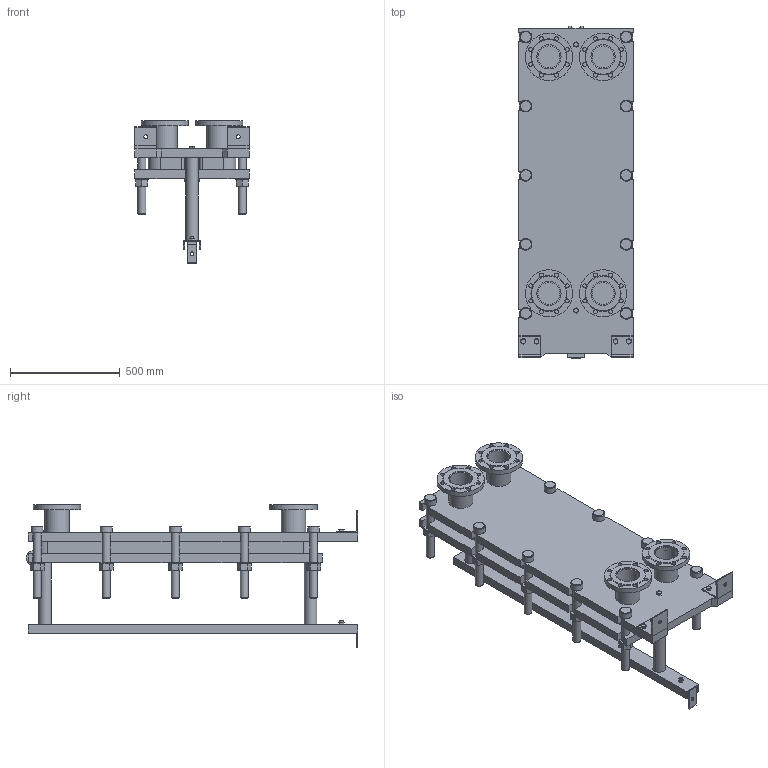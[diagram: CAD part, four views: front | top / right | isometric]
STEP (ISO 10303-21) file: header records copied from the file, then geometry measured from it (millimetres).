
FILE_DESCRIPTION(/* description */ (''),/* implementation_level */ '2;1');
FILE_NAME(/* name */ 'C:\Users\zhuro\Desktop\ENCO\TO\ЭН-04\ЭН-0,5-04-16-1.stp',/* time_stamp */ '2022-06-06T10:45:36+03:00',/* author */ ('zhuro'),/* organization */ (''),/* preprocessor_version */ 'ST-DEVELOPER v18.1',/* originating_system */ 'Autodesk Inventor 2022',/* authorisation */ '');
FILE_SCHEMA (('AUTOMOTIVE_DESIGN { 1 0 10303 214 3 1 1 }'));
Length unit declared in the file: millimetre
Products named in the file (1): ЭН-0,5-04-16-1
Bounding box: 520 x 1510 x 653 mm (x, y, z)
Volume: 94270529.9 mm3; surface area: 6508094 mm2
Topology: 45 solids, 45 shells, 668 faces, 1611 edges, 1048 vertices
Faces by surface type: plane 457, cylinder 166, cone 39, torus 6
Full cylindrical faces by diameter (mm): 8 x4, 10 x2, 16 x8, 18 x35, 36 x25, 40 x2, 42 x1, 45 x4, 54 x10, 57 x2, 60 x10, 68 x2, 100 x4, 110 x8, 215 x4
Entity records: 23607 total; most frequent: CARTESIAN_POINT 7348, DIRECTION 3371, ORIENTED_EDGE 3142, EDGE_CURVE 1571, AXIS2_PLACEMENT_3D 1199, VERTEX_POINT 1044, LINE 973, VECTOR 973
